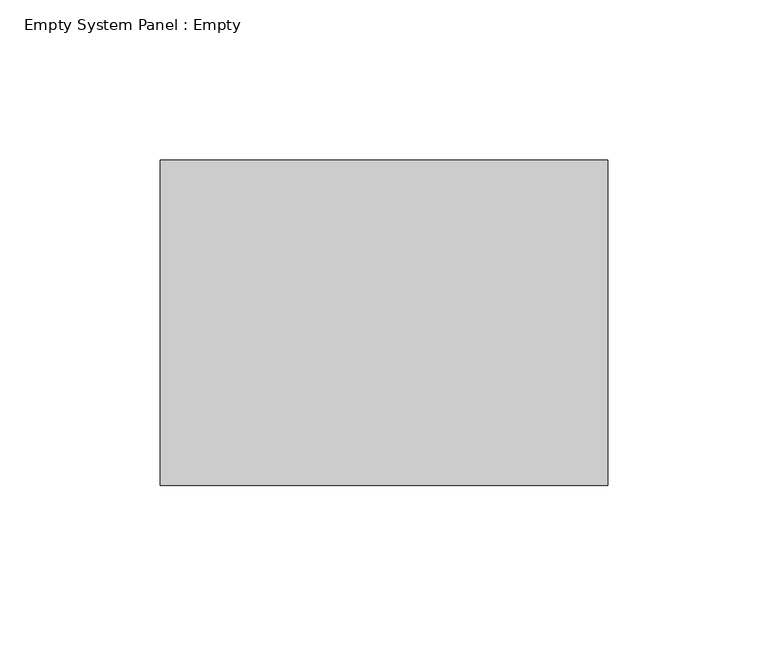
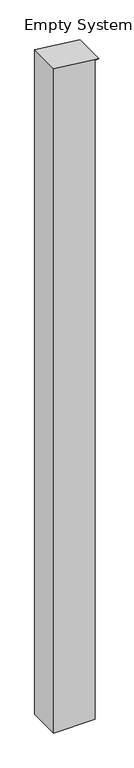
"""IFC4 building model written with IfcOpenShell, lengths in millimetres: plate geometry, Empty System Panel : Empty."""

from ifc_helpers import new_model, si_unit, frame, origin, place, context, project, spatial, polyline, outline, extrude, source, transform, mapped, element, save


def empty_system_panel_empty_7767e091(model_context):
    return source(origin(), model_context, "Body", "SweptSolid", [
        extrude(outline(polyline([(0.0, -69.85), (0.0, 57.15), (2144.7585279, 57.15), (2144.7585279, 69.85), (2160.3837178, -69.85), (0.0, -69.85)])), frame((0.0, -50.8, 0.0), z_axis=(0.0, 1.0, 0.0), x_axis=(0.0, 0.0, 1.0)), (0.0, 0.0, 1.0), 101.6),
    ])


if __name__ == "__main__":
    model = new_model("IFC4")
    model_context = context("Model", 3, world=origin())
    ifc_project = project(units=[si_unit("LENGTHUNIT", "METRE", prefix="MILLI")], contexts=[model_context])
    site = spatial("IfcSite", under=ifc_project)
    building = spatial("IfcBuilding", under=site)
    placement = place(None, origin())
    empty_system_panel_empty_shape = empty_system_panel_empty_7767e091(model_context)
    element("IfcPlate", 1, ObjectType="Empty System Panel : Empty", at=placement, inside=building, context=model_context, shape_type="MappedRepresentation", body=[
        mapped(empty_system_panel_empty_shape, transform((0.0, 0.0, 0.0), x_axis=(1.0, 0.0, 0.0), y_axis=(0.0, 1.0, 0.0), z_axis=(0.0, 0.0, 1.0))),
    ])
    save(model, "model.ifc")
